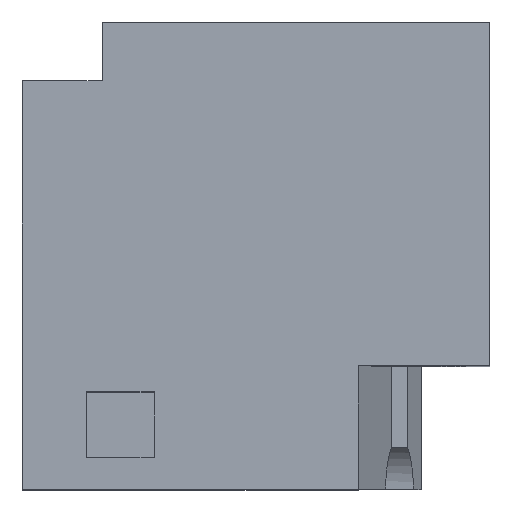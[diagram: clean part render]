
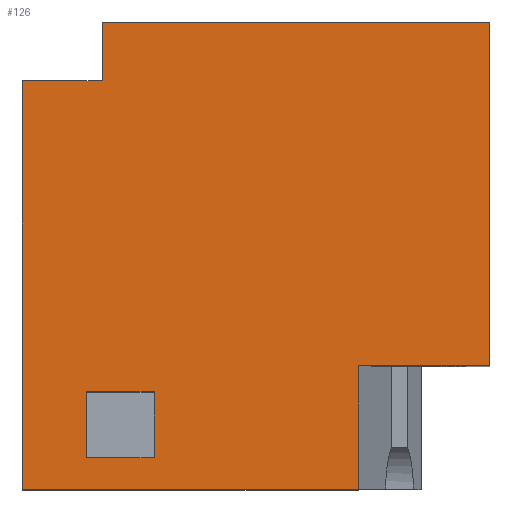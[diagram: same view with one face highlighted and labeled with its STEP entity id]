
A CAD part, top view. The second image highlights one B-rep face of the part: STEP entity #126.
In plain terms, the highlighted planar face has unit normal (0, 0, 1).
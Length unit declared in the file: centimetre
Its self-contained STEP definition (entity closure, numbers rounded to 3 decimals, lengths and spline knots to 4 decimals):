
#41 = LINE ( 'NONE', #1519, #255 ) ;
#52 = DIRECTION ( 'NONE',  ( -1., 0., 0. ) ) ;
#92 = CARTESIAN_POINT ( 'NONE',  ( 136.5785, 208.6856, 1000. ) ) ;
#126 = ADVANCED_FACE ( 'NONE', ( #795, #1182 ), #692, .T. ) ;
#179 = VECTOR ( 'NONE', #1331, 100. ) ;
#233 = LINE ( 'NONE', #1342, #1073 ) ;
#245 = EDGE_CURVE ( 'NONE', #1412, #1391, #1465, .T. ) ;
#255 = VECTOR ( 'NONE', #639, 100. ) ;
#259 = EDGE_CURVE ( 'NONE', #716, #1179, #233, .T. ) ;
#265 = ORIENTED_EDGE ( 'NONE', *, *, #1281, .F. ) ;
#294 = ORIENTED_EDGE ( 'NONE', *, *, #1078, .F. ) ;
#297 = EDGE_CURVE ( 'NONE', #1394, #510, #835, .T. ) ;
#345 = CARTESIAN_POINT ( 'NONE',  ( 0., 1000., 1000. ) ) ;
#359 = VECTOR ( 'NONE', #1184, 100. ) ;
#361 = VECTOR ( 'NONE', #1504, 100. ) ;
#366 = CARTESIAN_POINT ( 'NONE',  ( 1000., 263.8493, 1000. ) ) ;
#379 = CARTESIAN_POINT ( 'NONE',  ( 282.0928, 208.6856, 1000. ) ) ;
#393 = LINE ( 'NONE', #1259, #754 ) ;
#402 = LINE ( 'NONE', #1138, #1530 ) ;
#425 = LINE ( 'NONE', #1262, #361 ) ;
#433 = EDGE_CURVE ( 'NONE', #1105, #1041, #393, .T. ) ;
#435 = DIRECTION ( 'NONE',  ( 0., -1., 0. ) ) ;
#444 = ORIENTED_EDGE ( 'NONE', *, *, #1060, .T. ) ;
#458 = AXIS2_PLACEMENT_3D ( 'NONE', #1189, #710, #549 ) ;
#492 = DIRECTION ( 'NONE',  ( 1., 0., 0. ) ) ;
#503 = EDGE_CURVE ( 'NONE', #1179, #1394, #1039, .T. ) ;
#510 = VERTEX_POINT ( 'NONE', #92 ) ;
#516 = CARTESIAN_POINT ( 'NONE',  ( 0., 1000., 1000. ) ) ;
#549 = DIRECTION ( 'NONE',  ( 1., 0., 0. ) ) ;
#564 = VERTEX_POINT ( 'NONE', #688 ) ;
#580 = ORIENTED_EDGE ( 'NONE', *, *, #1540, .F. ) ;
#622 = ORIENTED_EDGE ( 'NONE', *, *, #503, .F. ) ;
#630 = DIRECTION ( 'NONE',  ( 1., 0., 0. ) ) ;
#639 = DIRECTION ( 'NONE',  ( 1., 0., 0. ) ) ;
#654 = VERTEX_POINT ( 'NONE', #702 ) ;
#676 = EDGE_CURVE ( 'NONE', #1391, #654, #1083, .T. ) ;
#683 = EDGE_CURVE ( 'NONE', #1412, #1493, #402, .T. ) ;
#686 = CARTESIAN_POINT ( 'NONE',  ( 282.0928, 67.6949, 1000. ) ) ;
#688 = CARTESIAN_POINT ( 'NONE',  ( 170.6451, 873.9235, 1000. ) ) ;
#692 = PLANE ( 'NONE',  #458 ) ;
#702 = CARTESIAN_POINT ( 'NONE',  ( 170.6451, 1000., 1000. ) ) ;
#710 = DIRECTION ( 'NONE',  ( 0., 0., 1. ) ) ;
#716 = VERTEX_POINT ( 'NONE', #744 ) ;
#734 = VECTOR ( 'NONE', #1495, 100. ) ;
#744 = CARTESIAN_POINT ( 'NONE',  ( 136.5785, 67.6949, 1000. ) ) ;
#754 = VECTOR ( 'NONE', #630, 100. ) ;
#760 = CARTESIAN_POINT ( 'NONE',  ( 136.5785, 67.6949, 1000. ) ) ;
#773 = ORIENTED_EDGE ( 'NONE', *, *, #297, .F. ) ;
#793 = LINE ( 'NONE', #1187, #1376 ) ;
#795 = FACE_OUTER_BOUND ( 'NONE', #868, .T. ) ;
#824 = DIRECTION ( 'NONE',  ( -1., 0., 0. ) ) ;
#835 = LINE ( 'NONE', #1323, #179 ) ;
#837 = VECTOR ( 'NONE', #1390, 100. ) ;
#857 = CARTESIAN_POINT ( 'NONE',  ( 0., 873.9235, 1000. ) ) ;
#860 = CARTESIAN_POINT ( 'NONE',  ( 718.9723, 263.8493, 1000. ) ) ;
#864 = VECTOR ( 'NONE', #968, 100. ) ;
#868 = EDGE_LOOP ( 'NONE', ( #265, #1181, #1505, #1520, #1326, #294, #444, #1333 ) ) ;
#871 = VERTEX_POINT ( 'NONE', #857 ) ;
#876 = EDGE_LOOP ( 'NONE', ( #580, #773, #622, #1293 ) ) ;
#927 = CARTESIAN_POINT ( 'NONE',  ( 282.0928, 67.6949, 1000. ) ) ;
#968 = DIRECTION ( 'NONE',  ( 0., 1., 0. ) ) ;
#991 = EDGE_CURVE ( 'NONE', #564, #654, #425, .T. ) ;
#1036 = LINE ( 'NONE', #516, #734 ) ;
#1039 = LINE ( 'NONE', #686, #359 ) ;
#1041 = VERTEX_POINT ( 'NONE', #1380 ) ;
#1060 = EDGE_CURVE ( 'NONE', #871, #1105, #1036, .T. ) ;
#1073 = VECTOR ( 'NONE', #492, 100. ) ;
#1078 = EDGE_CURVE ( 'NONE', #871, #564, #41, .T. ) ;
#1083 = LINE ( 'NONE', #345, #1228 ) ;
#1105 = VERTEX_POINT ( 'NONE', #1276 ) ;
#1138 = CARTESIAN_POINT ( 'NONE',  ( 1000., 263.8493, 1000. ) ) ;
#1179 = VERTEX_POINT ( 'NONE', #927 ) ;
#1181 = ORIENTED_EDGE ( 'NONE', *, *, #683, .F. ) ;
#1182 = FACE_BOUND ( 'NONE', #876, .T. ) ;
#1184 = DIRECTION ( 'NONE',  ( 0., 1., 0. ) ) ;
#1187 = CARTESIAN_POINT ( 'NONE',  ( 718.9723, 263.8493, 1000. ) ) ;
#1189 = CARTESIAN_POINT ( 'NONE',  ( 0., 0., 1000. ) ) ;
#1228 = VECTOR ( 'NONE', #824, 100. ) ;
#1259 = CARTESIAN_POINT ( 'NONE',  ( 0., 0., 1000. ) ) ;
#1260 = LINE ( 'NONE', #760, #837 ) ;
#1262 = CARTESIAN_POINT ( 'NONE',  ( 170.6451, 873.9235, 1000. ) ) ;
#1276 = CARTESIAN_POINT ( 'NONE',  ( 0., 0., 1000. ) ) ;
#1281 = EDGE_CURVE ( 'NONE', #1493, #1041, #793, .T. ) ;
#1293 = ORIENTED_EDGE ( 'NONE', *, *, #259, .F. ) ;
#1323 = CARTESIAN_POINT ( 'NONE',  ( 136.5785, 208.6856, 1000. ) ) ;
#1326 = ORIENTED_EDGE ( 'NONE', *, *, #991, .F. ) ;
#1331 = DIRECTION ( 'NONE',  ( -1., 0., 0. ) ) ;
#1333 = ORIENTED_EDGE ( 'NONE', *, *, #433, .T. ) ;
#1342 = CARTESIAN_POINT ( 'NONE',  ( 136.5785, 67.6949, 1000. ) ) ;
#1353 = CARTESIAN_POINT ( 'NONE',  ( 1000., 1000., 1000. ) ) ;
#1376 = VECTOR ( 'NONE', #435, 100. ) ;
#1380 = CARTESIAN_POINT ( 'NONE',  ( 718.9723, 0., 1000. ) ) ;
#1390 = DIRECTION ( 'NONE',  ( 0., -1., 0. ) ) ;
#1391 = VERTEX_POINT ( 'NONE', #1353 ) ;
#1394 = VERTEX_POINT ( 'NONE', #379 ) ;
#1412 = VERTEX_POINT ( 'NONE', #366 ) ;
#1453 = CARTESIAN_POINT ( 'NONE',  ( 1000., 1000., 1000. ) ) ;
#1465 = LINE ( 'NONE', #1453, #864 ) ;
#1493 = VERTEX_POINT ( 'NONE', #860 ) ;
#1495 = DIRECTION ( 'NONE',  ( 0., -1., 0. ) ) ;
#1504 = DIRECTION ( 'NONE',  ( 0., 1., 0. ) ) ;
#1505 = ORIENTED_EDGE ( 'NONE', *, *, #245, .T. ) ;
#1519 = CARTESIAN_POINT ( 'NONE',  ( 0., 873.9235, 1000. ) ) ;
#1520 = ORIENTED_EDGE ( 'NONE', *, *, #676, .T. ) ;
#1530 = VECTOR ( 'NONE', #52, 100. ) ;
#1540 = EDGE_CURVE ( 'NONE', #510, #716, #1260, .T. ) ;
